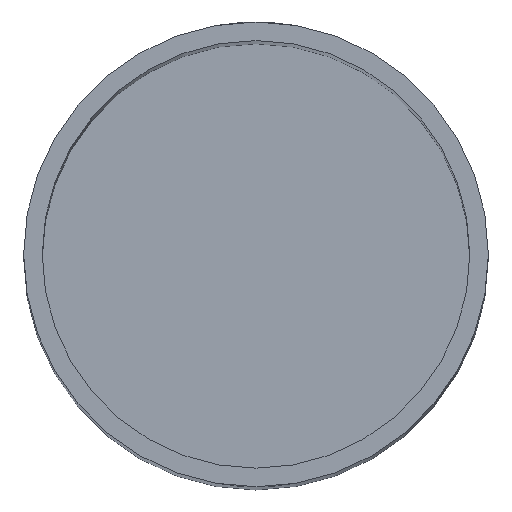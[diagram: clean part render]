
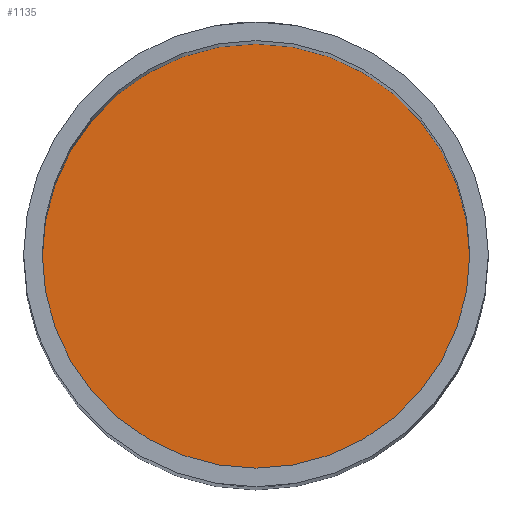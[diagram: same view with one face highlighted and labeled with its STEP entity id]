
A CAD part, top view. The second image highlights one B-rep face of the part: STEP entity #1135.
In plain terms, the highlighted planar face has unit normal (0, 0, 1).
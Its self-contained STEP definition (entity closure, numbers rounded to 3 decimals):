
#627 = CYLINDRICAL_SURFACE('',#628,23.);
#628 = AXIS2_PLACEMENT_3D('',#629,#630,#631);
#629 = CARTESIAN_POINT('',(0.,0.,3.));
#630 = DIRECTION('',(0.,0.,1.));
#631 = DIRECTION('',(0.,-1.,0.));
#1082 = VERTEX_POINT('',#1083);
#1083 = CARTESIAN_POINT('',(0.,-23.,3.));
#1104 = EDGE_CURVE('',#1082,#1082,#1105,.T.);
#1105 = SURFACE_CURVE('',#1106,(#1111,#1118),.PCURVE_S1.);
#1106 = CIRCLE('',#1107,23.);
#1107 = AXIS2_PLACEMENT_3D('',#1108,#1109,#1110);
#1108 = CARTESIAN_POINT('',(0.,0.,3.));
#1109 = DIRECTION('',(-0.,0.,1.));
#1110 = DIRECTION('',(0.,-1.,0.));
#1111 = PCURVE('',#627,#1112);
#1112 = DEFINITIONAL_REPRESENTATION('',(#1113),#1117);
#1113 = LINE('',#1114,#1115);
#1114 = CARTESIAN_POINT('',(0.,0.));
#1115 = VECTOR('',#1116,1.);
#1116 = DIRECTION('',(1.,0.));
#1117 = ( GEOMETRIC_REPRESENTATION_CONTEXT(2) 
PARAMETRIC_REPRESENTATION_CONTEXT() REPRESENTATION_CONTEXT('2D SPACE',''
  ) );
#1118 = PCURVE('',#1119,#1124);
#1119 = PLANE('',#1120);
#1120 = AXIS2_PLACEMENT_3D('',#1121,#1122,#1123);
#1121 = CARTESIAN_POINT('',(0.,0.,3.));
#1122 = DIRECTION('',(0.,0.,1.));
#1123 = DIRECTION('',(0.,-1.,0.));
#1124 = DEFINITIONAL_REPRESENTATION('',(#1125),#1129);
#1125 = CIRCLE('',#1126,23.);
#1126 = AXIS2_PLACEMENT_2D('',#1127,#1128);
#1127 = CARTESIAN_POINT('',(0.,0.));
#1128 = DIRECTION('',(1.,0.));
#1129 = ( GEOMETRIC_REPRESENTATION_CONTEXT(2) 
PARAMETRIC_REPRESENTATION_CONTEXT() REPRESENTATION_CONTEXT('2D SPACE',''
  ) );
#1135 = ADVANCED_FACE('',(#1136),#1119,.T.);
#1136 = FACE_BOUND('',#1137,.F.);
#1137 = EDGE_LOOP('',(#1138));
#1138 = ORIENTED_EDGE('',*,*,#1104,.F.);
